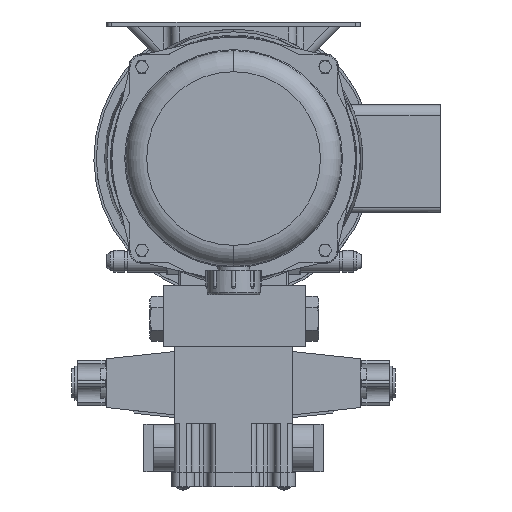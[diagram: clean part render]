
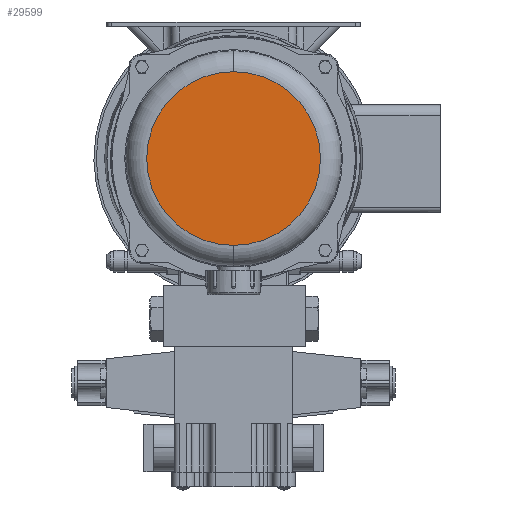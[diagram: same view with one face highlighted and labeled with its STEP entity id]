
A CAD part, front view. The second image highlights one B-rep face of the part: STEP entity #29599.
In plain terms, the highlighted planar face has unit normal (0, -1, 0).
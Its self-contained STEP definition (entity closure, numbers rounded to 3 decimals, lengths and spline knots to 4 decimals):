
#28860=CARTESIAN_POINT('',(0.,-8.005,0.));
#28861=DIRECTION('',(0.,1.,0.));
#28862=DIRECTION('',(0.,0.,1.));
#28863=AXIS2_PLACEMENT_3D('',#28860,#28861,#28862);
#28865=CARTESIAN_POINT('',(0.,-8.005,0.));
#28866=DIRECTION('',(0.,1.,0.));
#28867=DIRECTION('',(0.,0.,-1.));
#28868=AXIS2_PLACEMENT_3D('',#28865,#28866,#28867);
#29438=CARTESIAN_POINT('',(0.,-8.005,2.2275));
#29439=CARTESIAN_POINT('',(0.,-8.005,-2.2275));
#29440=VERTEX_POINT('',#29438);
#29441=VERTEX_POINT('',#29439);
#29588=CARTESIAN_POINT('',(0.,-8.005,0.));
#29589=DIRECTION('',(0.,-1.,0.));
#29590=DIRECTION('',(0.,0.,1.));
#29591=AXIS2_PLACEMENT_3D('',#29588,#29589,#29590);
#29592=PLANE('',#29591);
#29594=ORIENTED_EDGE('',*,*,#29593,.T.);
#29596=ORIENTED_EDGE('',*,*,#29595,.T.);
#29597=EDGE_LOOP('',(#29594,#29596));
#29598=FACE_OUTER_BOUND('',#29597,.F.);
#29599=ADVANCED_FACE('',(#29598),#29592,.T.);
#28864=CIRCLE('',#28863,2.2275);
#28869=CIRCLE('',#28868,2.2275);
#29593=EDGE_CURVE('',#29440,#29441,#28864,.T.);
#29595=EDGE_CURVE('',#29441,#29440,#28869,.T.);
